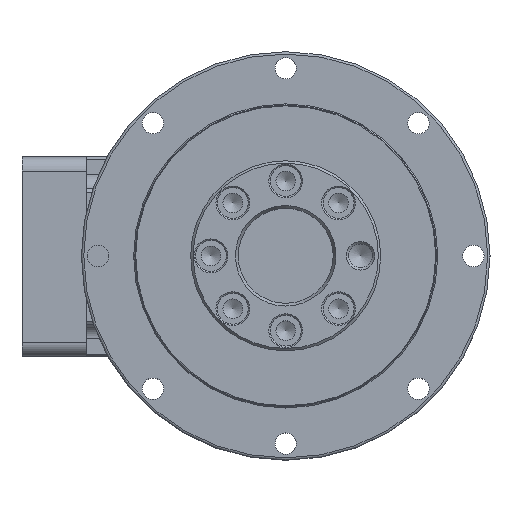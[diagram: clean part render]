
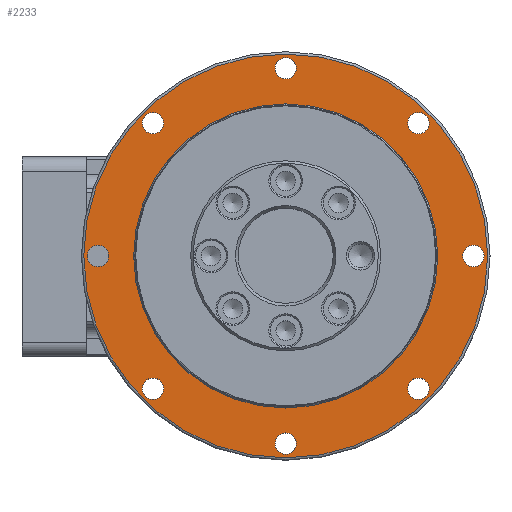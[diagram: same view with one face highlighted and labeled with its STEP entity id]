
A CAD part, top view. The second image highlights one B-rep face of the part: STEP entity #2233.
In plain terms, the highlighted planar face has unit normal (0, 0, 1).
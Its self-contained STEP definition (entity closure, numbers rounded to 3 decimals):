
#2111=CARTESIAN_POINT('',(42.5,0.,6.));
#2112=VERTEX_POINT('',#2111);
#2113=CARTESIAN_POINT('',(0.0,0.0,6.));
#2114=DIRECTION('',(0.0,0.0,-1.0));
#2115=DIRECTION('',(-1.0,0.0,0.0));
#2116=AXIS2_PLACEMENT_3D('',#2113,#2114,#2115);
#2117=CIRCLE('',#2116,42.5);
#2118=EDGE_CURVE('',#2112,#2112,#2117,.T.);
#2126=CARTESIAN_POINT('',(0.0,0.0,6.));
#2127=DIRECTION('',(0.0,0.0,-1.0));
#2128=DIRECTION('',(-1.0,0.0,0.0));
#2129=AXIS2_PLACEMENT_3D('',#2126,#2127,#2128);
#2130=PLANE('',#2129);
#2131=ORIENTED_EDGE('',*,*,#2118,.F.);
#2132=EDGE_LOOP('',(#2131));
#2133=FACE_OUTER_BOUND('',#2132,.T.);
#2134=CARTESIAN_POINT('',(32.0,0.,6.));
#2135=VERTEX_POINT('',#2134);
#2136=CARTESIAN_POINT('',(0.0,0.0,6.));
#2137=DIRECTION('',(0.0,0.0,-1.0));
#2138=DIRECTION('',(-1.0,0.0,0.0));
#2139=AXIS2_PLACEMENT_3D('',#2136,#2137,#2138);
#2140=CIRCLE('',#2139,32.0);
#2141=EDGE_CURVE('',#2135,#2135,#2140,.T.);
#2142=ORIENTED_EDGE('',*,*,#2141,.T.);
#2143=EDGE_LOOP('',(#2142));
#2144=FACE_BOUND('',#2143,.T.);
#2145=CARTESIAN_POINT('',(2.25,39.5,6.));
#2146=VERTEX_POINT('',#2145);
#2147=CARTESIAN_POINT('',(0.0,39.5,6.));
#2148=DIRECTION('',(0.0,0.0,-1.0));
#2149=DIRECTION('',(-1.0,0.0,0.0));
#2150=AXIS2_PLACEMENT_3D('',#2147,#2148,#2149);
#2151=CIRCLE('',#2150,2.25);
#2152=EDGE_CURVE('',#2146,#2146,#2151,.T.);
#2153=ORIENTED_EDGE('',*,*,#2152,.T.);
#2154=EDGE_LOOP('',(#2153));
#2155=FACE_BOUND('',#2154,.T.);
#2156=CARTESIAN_POINT('',(-26.34,29.522,6.));
#2157=VERTEX_POINT('',#2156);
#2158=CARTESIAN_POINT('',(-27.931,27.931,6.));
#2159=DIRECTION('',(0.0,0.0,-1.));
#2160=DIRECTION('',(-0.707,-0.707,0.0));
#2161=AXIS2_PLACEMENT_3D('',#2158,#2159,#2160);
#2162=CIRCLE('',#2161,2.25);
#2163=EDGE_CURVE('',#2157,#2157,#2162,.T.);
#2164=ORIENTED_EDGE('',*,*,#2163,.T.);
#2165=EDGE_LOOP('',(#2164));
#2166=FACE_BOUND('',#2165,.T.);
#2167=CARTESIAN_POINT('',(-39.5,2.25,6.));
#2168=VERTEX_POINT('',#2167);
#2169=CARTESIAN_POINT('',(-39.5,0.0,6.));
#2170=DIRECTION('',(0.0,0.0,-1.0));
#2171=DIRECTION('',(0.0,-1.0,0.0));
#2172=AXIS2_PLACEMENT_3D('',#2169,#2170,#2171);
#2173=CIRCLE('',#2172,2.25);
#2174=EDGE_CURVE('',#2168,#2168,#2173,.T.);
#2175=ORIENTED_EDGE('',*,*,#2174,.T.);
#2176=EDGE_LOOP('',(#2175));
#2177=FACE_BOUND('',#2176,.T.);
#2178=CARTESIAN_POINT('',(-29.522,-26.34,6.));
#2179=VERTEX_POINT('',#2178);
#2180=CARTESIAN_POINT('',(-27.931,-27.931,6.));
#2181=DIRECTION('',(0.0,0.0,-1.));
#2182=DIRECTION('',(0.707,-0.707,0.0));
#2183=AXIS2_PLACEMENT_3D('',#2180,#2181,#2182);
#2184=CIRCLE('',#2183,2.25);
#2185=EDGE_CURVE('',#2179,#2179,#2184,.T.);
#2186=ORIENTED_EDGE('',*,*,#2185,.T.);
#2187=EDGE_LOOP('',(#2186));
#2188=FACE_BOUND('',#2187,.T.);
#2189=CARTESIAN_POINT('',(-2.25,-39.5,6.));
#2190=VERTEX_POINT('',#2189);
#2191=CARTESIAN_POINT('',(0.,-39.5,6.));
#2192=DIRECTION('',(0.0,0.0,-1.0));
#2193=DIRECTION('',(1.0,0.0,0.0));
#2194=AXIS2_PLACEMENT_3D('',#2191,#2192,#2193);
#2195=CIRCLE('',#2194,2.25);
#2196=EDGE_CURVE('',#2190,#2190,#2195,.T.);
#2197=ORIENTED_EDGE('',*,*,#2196,.T.);
#2198=EDGE_LOOP('',(#2197));
#2199=FACE_BOUND('',#2198,.T.);
#2200=CARTESIAN_POINT('',(26.34,-29.522,6.));
#2201=VERTEX_POINT('',#2200);
#2202=CARTESIAN_POINT('',(27.931,-27.931,6.));
#2203=DIRECTION('',(0.0,0.0,-1.));
#2204=DIRECTION('',(0.707,0.707,0.0));
#2205=AXIS2_PLACEMENT_3D('',#2202,#2203,#2204);
#2206=CIRCLE('',#2205,2.25);
#2207=EDGE_CURVE('',#2201,#2201,#2206,.T.);
#2208=ORIENTED_EDGE('',*,*,#2207,.T.);
#2209=EDGE_LOOP('',(#2208));
#2210=FACE_BOUND('',#2209,.T.);
#2211=CARTESIAN_POINT('',(39.5,-2.25,6.));
#2212=VERTEX_POINT('',#2211);
#2213=CARTESIAN_POINT('',(39.5,0.,6.));
#2214=DIRECTION('',(0.0,0.0,-1.0));
#2215=DIRECTION('',(0.0,1.0,0.0));
#2216=AXIS2_PLACEMENT_3D('',#2213,#2214,#2215);
#2217=CIRCLE('',#2216,2.25);
#2218=EDGE_CURVE('',#2212,#2212,#2217,.T.);
#2219=ORIENTED_EDGE('',*,*,#2218,.T.);
#2220=EDGE_LOOP('',(#2219));
#2221=FACE_BOUND('',#2220,.T.);
#2222=CARTESIAN_POINT('',(29.522,26.34,6.));
#2223=VERTEX_POINT('',#2222);
#2224=CARTESIAN_POINT('',(27.931,27.931,6.));
#2225=DIRECTION('',(0.0,0.0,-1.));
#2226=DIRECTION('',(-0.707,0.707,0.0));
#2227=AXIS2_PLACEMENT_3D('',#2224,#2225,#2226);
#2228=CIRCLE('',#2227,2.25);
#2229=EDGE_CURVE('',#2223,#2223,#2228,.T.);
#2230=ORIENTED_EDGE('',*,*,#2229,.T.);
#2231=EDGE_LOOP('',(#2230));
#2232=FACE_BOUND('',#2231,.T.);
#2233=ADVANCED_FACE('',(#2133,#2144,#2155,#2166,#2177,#2188,#2199,#2210,#2221,#2232),#2130,.F.);
